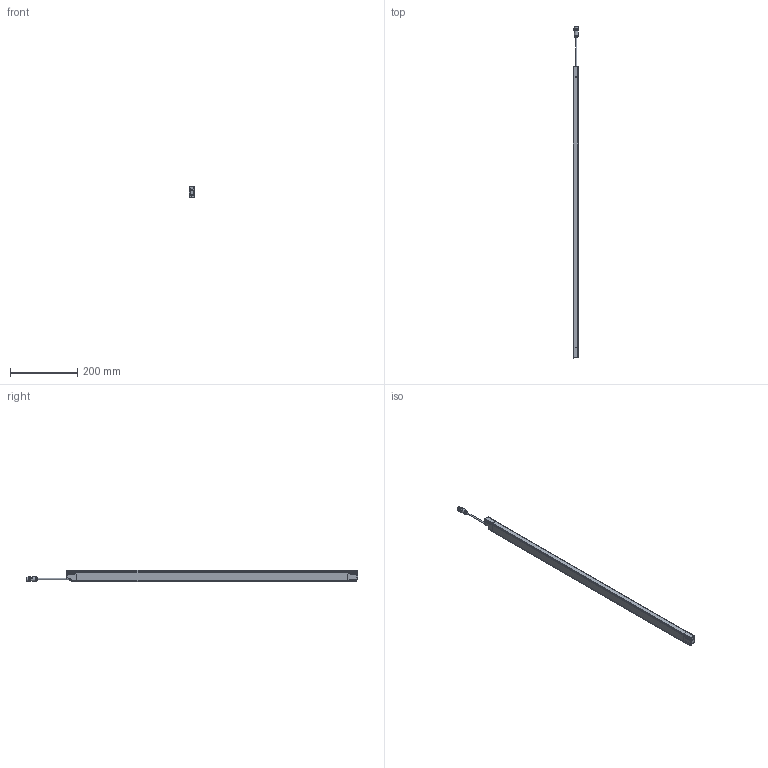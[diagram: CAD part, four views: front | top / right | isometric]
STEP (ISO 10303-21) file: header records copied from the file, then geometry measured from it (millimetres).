
FILE_DESCRIPTION(/* description */ (''),/* implementation_level */ '2;1');
FILE_NAME(/* name */ 'DSD-0644.stp',/* time_stamp */ '2015-02-23T17:42:01+01:00',/* author */ (''),/* organization */ (''),/* preprocessor_version */ 'ST-DEVELOPER v11',/* originating_system */ 'SIEMENS PLM Software NX 7.5',/* authorisation */ '');
FILE_SCHEMA (('AUTOMOTIVE_DESIGN { 1 0 10303 214 1 1 1 1 }'));
Length unit declared in the file: millimetre
Products named in the file (1): AP008166_00
Bounding box: 17.36 x 990.24 x 33.46 mm (x, y, z)
Surface area: 106264.8 mm2 (no closed solid volume)
Topology: 0 solids, 43 shells, 1060 faces, 3625 edges, 2488 vertices
Faces by surface type: cylinder 390, plane 319, bspline 142, torus 112, sphere 65, cone 32
Full cylindrical faces by diameter (mm): 1 x5, 1.2 x2, 2.6 x6, 4 x1, 8.3 x1, 9.4 x1, 10.4 x1, 12 x1, 13 x1, 13.5 x1, 14.5 x2
Entity records: 44934 total; most frequent: CARTESIAN_POINT 14367, DIRECTION 6564, ORIENTED_EDGE 5646, EDGE_CURVE 3506, AXIS2_PLACEMENT_3D 2472, VERTEX_POINT 2457, LINE 1620, VECTOR 1620
